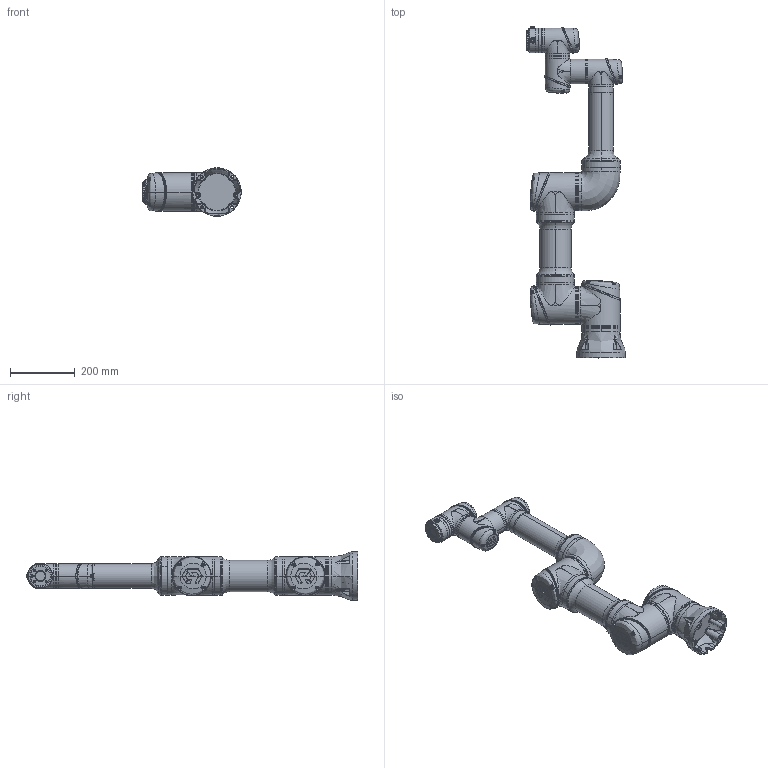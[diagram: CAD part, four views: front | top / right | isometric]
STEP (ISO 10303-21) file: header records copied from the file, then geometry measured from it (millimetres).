
FILE_DESCRIPTION (( 'STEP AP203' ), '1' );
FILE_NAME ('CS_掛极CS68_V1.2.STEP', '2025-03-31T05:34:43', ( '' ), ( '' ), 'SwSTEP 2.0', 'SolidWorks 2017', '' );
FILE_SCHEMA (( 'CONFIG_CONTROL_DESIGN' ));
Products named in the file (8): CS68_Link2; CS68-Flange; CS68-Link5; CS68-Link1; CS_掛极CS68_V1.2; CS68-Link3; CS68-Link4; CS68-Base
Assembly tree (7 placements, depth 2):
  CS_掛极CS68_V1.2
    CS68-Base
    CS68-Link1
    CS68_Link2
    CS68-Link3
    CS68-Link4
    CS68-Link5
    CS68-Flange
Bounding box: 304.35 x 1026.7 x 149.7 mm (x, y, z)
Volume: 12521355.7 mm3; surface area: 940428.9 mm2
Topology: 68 solids, 75 shells, 4698 faces, 11334 edges, 6820 vertices
Faces by surface type: bspline 2236, plane 1106, cylinder 754, cone 325, sphere 153, torus 124
Entity records: 779422 total; most frequent: CARTESIAN_POINT 687915, ORIENTED_EDGE 22254, DIRECTION 14100, EDGE_CURVE 11127, VERTEX_POINT 6808, AXIS2_PLACEMENT_3D 5961, EDGE_LOOP 4997, B_SPLINE_CURVE_WITH_KNOTS 4937
